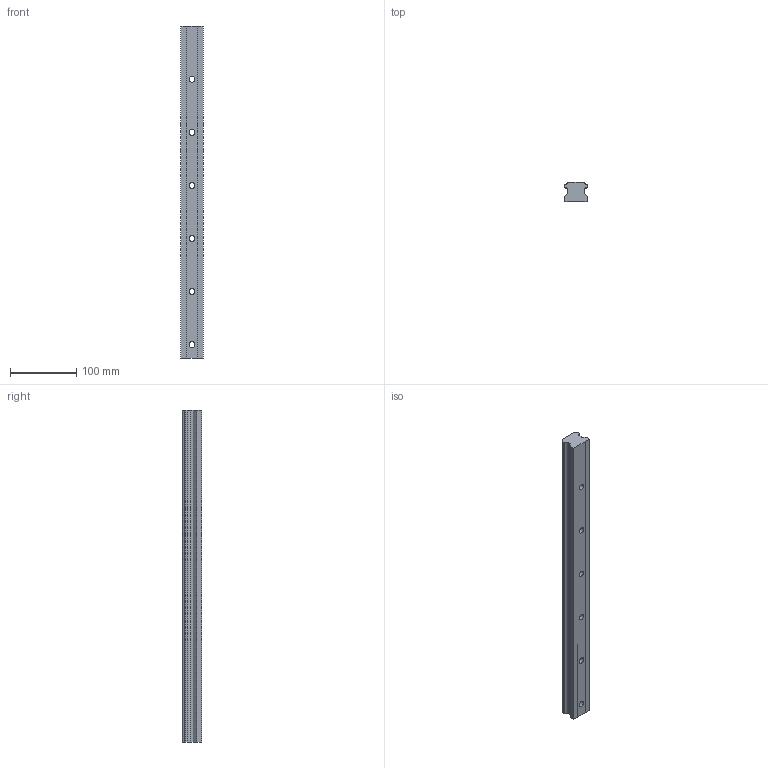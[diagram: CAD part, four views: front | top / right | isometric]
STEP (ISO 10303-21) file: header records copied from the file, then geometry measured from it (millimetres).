
FILE_DESCRIPTION (( 'STEP AP214' ), '1' );
FILE_NAME ('TRH35_RAIL.STEP', '2023-08-16T09:00:40', ( '' ), ( '' ), 'SwSTEP 2.0', 'SolidWorks 2022', '' );
FILE_SCHEMA (( 'AUTOMOTIVE_DESIGN' ));
Length unit declared in the file: millimetre
Products named in the file (1): TRH35_RAIL
Bounding box: 34 x 29 x 500 mm (x, y, z)
Volume: 411184.8 mm3; surface area: 72177.3 mm2
Topology: 1 solids, 1 shells, 80 faces, 216 edges, 144 vertices
Faces by surface type: cylinder 52, plane 28
Entity records: 2622 total; most frequent: DIRECTION 482, CARTESIAN_POINT 441, ORIENTED_EDGE 432, EDGE_CURVE 216, AXIS2_PLACEMENT_3D 185, VERTEX_POINT 144, VECTOR 112, LINE 112
